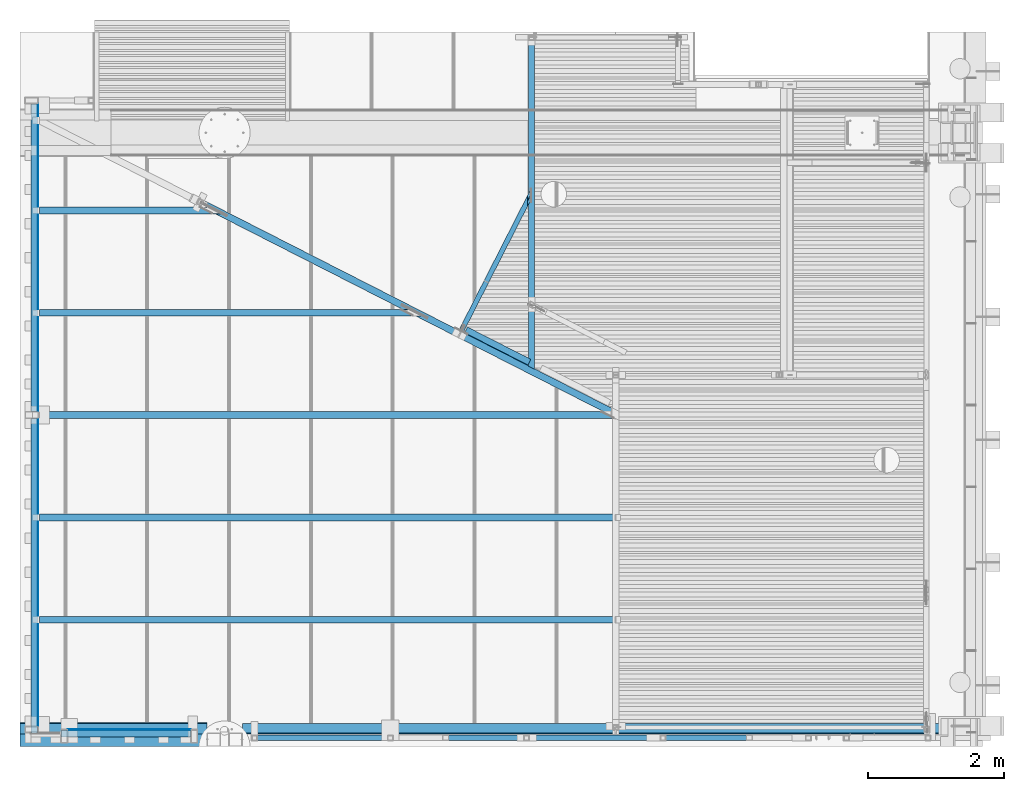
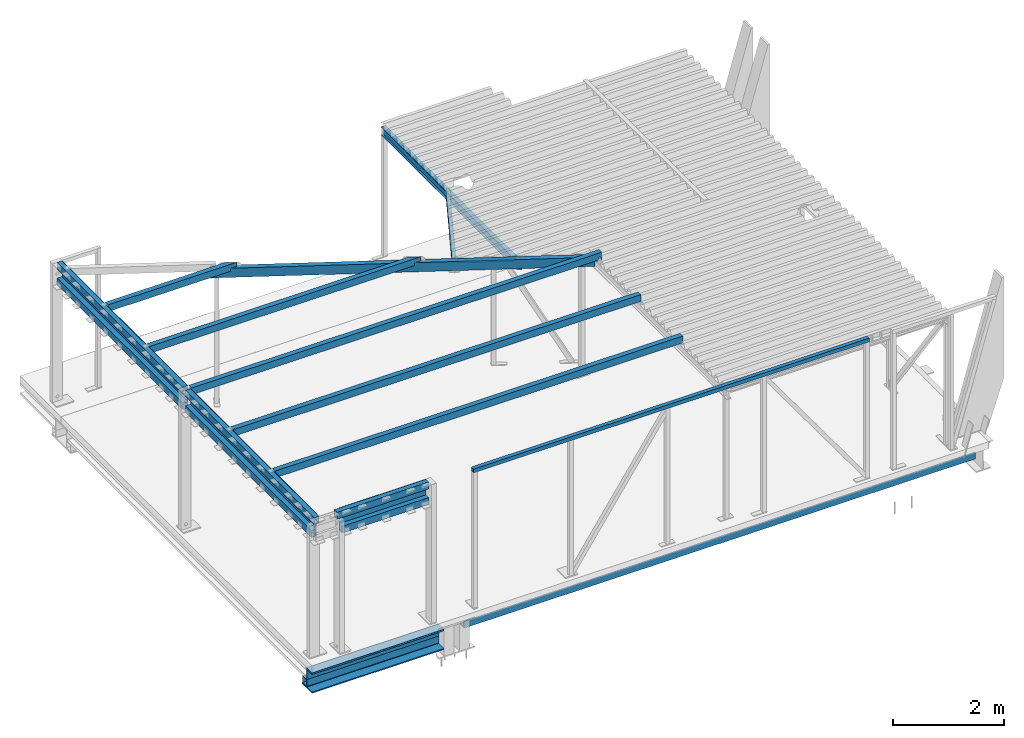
# One storey, part 6 of 30: 22 beams.
"""IFC2X3 building model written with IfcOpenShell, lengths in millimetres."""

from ifc_helpers import new_model, entity, si_unit, converted_unit, derived_unit, direction, frame, origin_with_axes, place, context, subcontext, project, spatial, faceted_brep, material, type_object, element, save


model = new_model("IFC2X3")

# Units and contexts
model_context = context("Model", 3, precision=0.01, world=frame((0.0, 4.29681676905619e-09, 0.0)), true_north=direction((4.01073788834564e-13, 1.0)))
plan_context = context("Plan", 3, precision=0.01, world=frame((0.0, 4.29681676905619e-09, 0.0)), true_north=direction((4.01073788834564e-13, 1.0)))
body_context = subcontext(model_context, "Body", "Model", "MODEL_VIEW")
ifc_project = project(units=[converted_unit("PLANEANGLEUNIT", "DEGREE", entity("IfcPositiveLengthMeasure", 0.0174532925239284), si_unit("PLANEANGLEUNIT", "RADIAN"), dimensions=[0, 0, 0, 0, 0, 0, 0]), si_unit("AREAUNIT", "SQUARE_METRE"), si_unit("LENGTHUNIT", "METRE", prefix="MILLI"), si_unit("MASSUNIT", "GRAM", prefix="KILO"), si_unit("POWERUNIT", "WATT"), si_unit("PRESSUREUNIT", "PASCAL"), si_unit("FORCEUNIT", "NEWTON", prefix="KILO"), si_unit("ELECTRICVOLTAGEUNIT", "VOLT"), si_unit("ELECTRICCURRENTUNIT", "AMPERE"), si_unit("THERMODYNAMICTEMPERATUREUNIT", "DEGREE_CELSIUS"), si_unit("TIMEUNIT", "SECOND"), si_unit("VOLUMEUNIT", "CUBIC_METRE"), derived_unit("LINEARVELOCITYUNIT", [(si_unit("LENGTHUNIT", "METRE"), 1), (si_unit("TIMEUNIT", "SECOND"), -1)]), derived_unit("VOLUMETRICFLOWRATEUNIT", [(si_unit("VOLUMEUNIT", "CUBIC_METRE"), 1), (si_unit("TIMEUNIT", "SECOND"), -1)]), derived_unit("THERMALTRANSMITTANCEUNIT", [(si_unit("POWERUNIT", "WATT"), 1), (si_unit("THERMODYNAMICTEMPERATUREUNIT", "KELVIN"), -1), (si_unit("AREAUNIT", "SQUARE_METRE"), -1)]), derived_unit("SOUNDPRESSUREUNIT", [(si_unit("PRESSUREUNIT", "PASCAL"), 1)])], contexts=[model_context, plan_context])

# Site, building, storey
site_placement = place(None, frame((0.0, -4.29681676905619e-09, 0.0), z_axis=(0.0, 0.0, 1.0), x_axis=(1.0, 0.0, 0.0)))
site = spatial("IfcSite", under=ifc_project, at=site_placement, Name="Gardermoen", CompositionType="ELEMENT")
building_placement = place(site_placement, frame((0.0, 4.29681676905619e-09, 0.0), z_axis=(0.0, 0.0, 1.0), x_axis=(1.0, 0.0, 0.0)))
building = spatial("IfcBuilding", under=site, at=building_placement, Name="TI", CompositionType="ELEMENT")
storey_placement = place(building_placement, origin_with_axes())
storey = spatial("IfcBuildingStorey", under=building, at=storey_placement, Name="F", CompositionType="ELEMENT", Elevation=0.0)

# Beams
ifc_material_1 = material(Name="STEEL/S355J2H")
beam_type_1 = type_object("IfcBeamType", Name="IPE140", PredefinedType="NOTDEFINED")
beam_1_placement = place(storey_placement, frame((605579.072081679, 697269.049177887, 213629.999809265), z_axis=(0.0, 0.0, 1.0), x_axis=(-0.45399020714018, -0.891006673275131, 0.0)))
element("IfcBeam", 1, at=beam_1_placement, inside=storey, type_object=beam_type_1, material=ifc_material_1, Name="STÅLBJELKE", ObjectType="IPE140", context=body_context, shape_type="Brep", body=[
    faceted_brep([(195.825077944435, 2.3499998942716, 54.9998889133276), (186.600801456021, -2.34999991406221, 54.9998889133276), (274.380968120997, -2.3499999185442, 54.9998889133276), (283.605238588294, 2.34999988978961, 54.9998889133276), (292.002484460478, -2.34999991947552, 63.0999999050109), (301.226754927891, 2.3499998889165, 63.0999999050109), (368.249914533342, 36.4999999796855, 70.0), (368.249914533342, 36.4999999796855, 63.0999999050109), (224.979324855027, -36.5000000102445, 63.0999999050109), (224.979324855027, -36.5000000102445, 70.0), (2428.00326682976, 2.34999977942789, -63.0999999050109), (2428.00326683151, 36.4999998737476, -63.0999999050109), (262.848281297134, 36.499999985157, -63.0999999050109), (195.825077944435, 2.3499998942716, -63.0999999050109), (2428.00326682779, -36.5000001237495, -63.0999999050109), (2428.00326682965, -2.35000002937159, -63.0999999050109), (186.600801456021, -2.34999991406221, -63.0999999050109), (119.577598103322, -36.5000000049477, -63.0999999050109), (2428.00326682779, -36.5000001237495, -70.0), (119.577598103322, -36.5000000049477, -70.0), (2428.00326683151, 36.4999998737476, -70.0), (262.848281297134, 36.499999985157, -70.0), (2428.00326682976, 2.34999977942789, 63.0999999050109), (2428.00326683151, 36.4999998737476, 63.0999999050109), (2428.00326683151, 36.4999998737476, 70.0), (2428.00326682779, -36.5000001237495, 70.0), (2428.00326682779, -36.5000001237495, 63.0999999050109), (2428.00326682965, -2.35000002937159, 63.0999999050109)], [[[0, 1, 2, 3]], [[3, 2, 4, 5]], [[6, 7, 5, 4, 8, 9]], [[10, 11, 12, 13]], [[14, 15, 16, 17]], [[18, 14, 17, 19]], [[20, 18, 19, 21]], [[11, 20, 21, 12]], [[10, 22, 23, 24, 25, 26, 27, 15, 14, 18, 20, 11]], [[25, 24, 6, 9]], [[26, 25, 9, 8]], [[27, 26, 8, 4]], [[1, 16, 15, 27, 4, 2]], [[13, 12, 21, 19, 17, 16, 1, 0]], [[22, 10, 13, 0, 3, 5]], [[23, 22, 5, 7]], [[24, 23, 7, 6]]]),
])
ifc_material_2 = material(Name="STEEL/S355")
beam_type_2 = type_object("IfcBeamType", Name="RHS150*100*8", PredefinedType="NOTDEFINED")
beam_2_placement = place(storey_placement, frame((600504.231709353, 689189.997607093, 213820.000686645), z_axis=(0.0, 0.0, 1.0), x_axis=(-0.999999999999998, 5.80000057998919e-08, 0.0)))
element("IfcBeam", 2, at=beam_2_placement, inside=storey, type_object=beam_type_2, material=ifc_material_2, Name="STÅLBJELKE", ObjectType="RHS150*100*8", context=body_context, shape_type="Brep", body=[
    faceted_brep([(-1.86264514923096e-09, 42.0000000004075, -67.0), (1.62981450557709e-09, -42.000000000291, -67.0), (1904.23001263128, -41.999999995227, -67.0000000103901), (1904.23001263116, 42.000000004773, -67.0000000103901), (1.62981450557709e-09, -42.000000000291, 67.0), (1904.23001263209, -41.999999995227, 66.999999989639), (-1.86264514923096e-09, 42.0000000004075, 67.0), (1904.23001263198, 42.000000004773, 66.999999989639), (0.0, 50.0, -75.0), (0.0, 50.0, 75.0), (1904.23001263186, 50.000000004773, 74.999999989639), (1904.23001263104, 50.000000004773, -75.0000000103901), (0.0, -50.0, 75.0), (1904.23001263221, -49.999999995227, 74.999999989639), (0.0, -50.0, -75.0), (1904.23001263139, -49.999999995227, -75.0000000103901)], [[[0, 1, 2, 3]], [[1, 4, 5, 2]], [[4, 6, 7, 5]], [[6, 0, 3, 7]], [[8, 9, 10, 11]], [[9, 12, 13, 10]], [[12, 14, 15, 13]], [[14, 8, 11, 15]], [[13, 15, 11, 10], [5, 7, 3, 2]], [[14, 12, 9, 8], [6, 4, 1, 0]]]),
])
beam_3_placement = place(storey_placement, frame((600509.991711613, 689189.997607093, 213480.000686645), z_axis=(0.0, 0.0, 1.0), x_axis=(-0.999999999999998, 5.80000057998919e-08, 0.0)))
element("IfcBeam", 3, at=beam_3_placement, inside=storey, type_object=beam_type_2, material=ifc_material_2, Name="STÅLBJELKE", ObjectType="RHS150*100*8", context=body_context, shape_type="Brep", body=[
    faceted_brep([(-1.86264514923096e-09, 42.0000000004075, -67.0), (1.62981450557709e-09, -42.000000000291, -67.0), (1809.99001264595, -41.999999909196, -66.9999999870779), (1809.99001264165, 42.000000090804, -66.9999999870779), (1.62981450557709e-09, -42.000000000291, 67.0), (1809.99001264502, -41.999999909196, 67.0000000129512), (-1.86264514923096e-09, 42.0000000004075, 67.0), (1809.99001264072, 42.000000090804, 67.0000000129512), (0.0, 50.0, -75.0), (0.0, 50.0, 75.0), (1809.99001264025, 50.000000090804, 75.0000000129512), (1809.9900126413, 50.000000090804, -74.9999999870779), (0.0, -50.0, 75.0), (1809.99001264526, -49.999999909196, 75.0000000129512), (0.0, -50.0, -75.0), (1809.9900126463, -49.999999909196, -74.9999999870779)], [[[0, 1, 2, 3]], [[1, 4, 5, 2]], [[4, 6, 7, 5]], [[6, 0, 3, 7]], [[8, 9, 10, 11]], [[9, 12, 13, 10]], [[12, 14, 15, 13]], [[14, 8, 11, 15]], [[13, 15, 11, 10], [5, 7, 3, 2]], [[14, 12, 9, 8], [6, 4, 1, 0]]]),
])
beam_4_placement = place(storey_placement, frame((598209.997607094, 693912.00258804, 213820.000686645), z_axis=(0.0, 0.0, 1.0), x_axis=(0.0, 1.0, 0.0)))
element("IfcBeam", 4, at=beam_4_placement, inside=storey, type_object=beam_type_2, material=ifc_material_2, Name="STÅLBJELKE", ObjectType="RHS150*100*8", context=body_context, shape_type="Brep", body=[
    faceted_brep([(-1.86264514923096e-09, 42.0000000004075, -67.0), (1.62981450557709e-09, -42.000000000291, -67.0), (4512.00001263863, -42.0000001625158, -66.9999999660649), (4512.00001264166, 41.9999998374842, -66.9999999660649), (1.62981450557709e-09, -42.000000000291, 67.0), (4512.00001264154, -42.0000001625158, 67.000000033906), (-1.86264514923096e-09, 42.0000000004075, 67.0), (4512.00001264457, 41.9999998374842, 67.000000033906), (0.0, 50.0, -75.0), (0.0, 50.0, 75.0), (4512.00001264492, 49.9999998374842, 75.000000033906), (4512.00001264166, 49.9999998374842, -74.9999999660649), (0.0, -50.0, 75.0), (4512.00001264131, -50.0000001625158, 75.000000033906), (0.0, -50.0, -75.0), (4512.00001263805, -50.0000001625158, -74.9999999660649)], [[[0, 1, 2, 3]], [[1, 4, 5, 2]], [[4, 6, 7, 5]], [[6, 0, 3, 7]], [[8, 9, 10, 11]], [[9, 12, 13, 10]], [[12, 14, 15, 13]], [[14, 8, 11, 15]], [[13, 15, 11, 10], [5, 7, 3, 2]], [[14, 12, 9, 8], [6, 4, 1, 0]]]),
])
beam_5_placement = place(storey_placement, frame((598210.001655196, 689200.007521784, 213819.999619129), z_axis=(0.0, 0.0, 1.0), x_axis=(0.0, 1.0, 0.0)))
element("IfcBeam", 5, at=beam_5_placement, inside=storey, type_object=beam_type_2, material=ifc_material_2, Name="STÅLBJELKE", ObjectType="RHS150*100*8", context=body_context, shape_type="Brep", body=[
    faceted_brep([(-1.86264514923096e-09, 42.0000000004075, -67.0), (1.62981450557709e-09, -42.000000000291, -67.0), (4611.99078032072, -42.0000001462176, -67.0), (4611.99078032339, 41.9999998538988, -67.0), (1.62981450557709e-09, -42.000000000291, 67.0), (4611.99078032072, -42.0000001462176, 67.0), (-1.86264514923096e-09, 42.0000000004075, 67.0), (4611.99078032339, 41.9999998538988, 67.0), (0.0, 50.0, -75.0), (0.0, 50.0, 75.0), (4611.99078032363, 49.9999998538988, 75.0), (4611.99078032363, 49.9999998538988, -75.0), (0.0, -50.0, 75.0), (4611.99078032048, -50.0000001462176, 75.0), (0.0, -50.0, -75.0), (4611.99078032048, -50.0000001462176, -75.0)], [[[0, 1, 2, 3]], [[1, 4, 5, 2]], [[4, 6, 7, 5]], [[6, 0, 3, 7]], [[8, 9, 10, 11]], [[9, 12, 13, 10]], [[12, 14, 15, 13]], [[14, 8, 11, 15]], [[13, 15, 11, 10], [5, 7, 3, 2]], [[14, 12, 9, 8], [6, 4, 1, 0]]]),
])
for number, where, z_axis, x_axis in (
    (6, (598209.997607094, 693912.00258804, 213480.000686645), (0.0, 0.0, 1.0), (0.0, 1.0, 0.0)),
    (7, (598209.997607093, 689300.008315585, 213480.000686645), (0.0, 0.0, 1.0), (0.0, 1.0, 0.0)),
):
    element("IfcBeam", number, at=place(storey_placement, frame(where, z_axis=z_axis, x_axis=x_axis)), inside=storey, type_object=beam_type_2, material=ifc_material_2, Name="STÅLBJELKE", ObjectType="RHS150*100*8", context=body_context, shape_type="Brep", body=[
        faceted_brep([(-1.86264514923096e-09, 42.0000000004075, -67.0), (1.62981450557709e-09, -42.000000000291, -67.0), (4512.00001263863, -42.0000001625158, -66.9999999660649), (4512.00001264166, 41.9999998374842, -66.9999999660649), (1.62981450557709e-09, -42.000000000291, 67.0), (4512.00001264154, -42.0000001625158, 67.000000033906), (-1.86264514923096e-09, 42.0000000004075, 67.0), (4512.00001264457, 41.9999998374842, 67.000000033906), (0.0, 50.0, -75.0), (0.0, 50.0, 75.0), (4512.00001264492, 49.9999998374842, 75.000000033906), (4512.00001264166, 49.9999998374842, -74.9999999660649), (0.0, -50.0, 75.0), (4512.00001264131, -50.0000001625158, 75.000000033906), (0.0, -50.0, -75.0), (4512.00001263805, -50.0000001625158, -74.9999999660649)], [[[0, 1, 2, 3]], [[1, 4, 5, 2]], [[4, 6, 7, 5]], [[6, 0, 3, 7]], [[8, 9, 10, 11]], [[9, 12, 13, 10]], [[12, 14, 15, 13]], [[14, 8, 11, 15]], [[13, 15, 11, 10], [5, 7, 3, 2]], [[14, 12, 9, 8], [6, 4, 1, 0]]]),
    ])
beam_type_3 = type_object("IfcBeamType", Name="PL10*490", PredefinedType="NOTDEFINED")
beam_6_placement = place(storey_placement, frame((600504.231811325, 689244.997607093, 213650.000686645), z_axis=(0.0, 0.0, 1.0), x_axis=(-0.999999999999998, 5.80000057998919e-08, 0.0)))
element("IfcBeam", 8, at=beam_6_placement, inside=storey, type_object=beam_type_3, material=ifc_material_2, Name="STÅLBJELKE", ObjectType="PL10*490", context=body_context, shape_type="Brep", body=[
    faceted_brep([(0.0, 5.0, -245.0), (0.0, 5.0, 245.0), (1804.23001253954, 5.00000009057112, 244.999999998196), (1804.23001255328, 5.00000009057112, -245.000000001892), (0.0, -5.0, 245.0), (1804.23001254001, -4.99999990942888, 244.999999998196), (0.0, -5.0, -245.0), (1804.23001255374, -4.99999990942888, -245.000000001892)], [[[0, 1, 2, 3]], [[1, 4, 5, 2]], [[4, 6, 7, 5]], [[6, 0, 3, 7]], [[5, 7, 3, 2]], [[6, 4, 1, 0]]]),
])
for number, where, z_axis, x_axis in (
    (9, (598264.997607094, 693912.002548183, 213650.000686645), (0.0, 0.0, 1.0), (0.0, 1.0, 0.0)),
    (10, (598264.997607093, 689300.00827575, 213650.000686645), (0.0, 0.0, 1.0), (0.0, 1.0, 0.0)),
):
    element("IfcBeam", number, at=place(storey_placement, frame(where, z_axis=z_axis, x_axis=x_axis)), inside=storey, type_object=beam_type_3, material=ifc_material_2, Name="STÅLBJELKE", ObjectType="PL10*490", context=body_context, shape_type="Brep", body=[
        faceted_brep([(0.0, 5.0, -245.0), (0.0, 5.0, 245.0), (4512.00001263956, 4.99999983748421, 245.000000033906), (4512.00001262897, 4.99999983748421, -244.999999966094), (0.0, -5.0, 245.0), (4512.00001263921, -5.00000016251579, 245.000000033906), (0.0, -5.0, -245.0), (4512.00001262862, -5.00000016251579, -244.999999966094)], [[[0, 1, 2, 3]], [[1, 4, 5, 2]], [[4, 6, 7, 5]], [[6, 0, 3, 7]], [[5, 7, 3, 2]], [[6, 4, 1, 0]]]),
    ])
beam_type_4 = type_object("IfcBeamType", Name="RHS80*80*6.3", PredefinedType="NOTDEFINED")
beam_7_placement = place(storey_placement, frame((609600.002392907, 689127.502606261, 213855.000686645), z_axis=(0.0, 0.0, 1.0), x_axis=(-0.999999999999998, 5.80000057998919e-08, 0.0)))
element("IfcBeam", 11, at=beam_7_placement, inside=storey, type_object=beam_type_4, material=ifc_material_2, Name="STÅLBJELKE", ObjectType="RHS80*80*6.3", context=body_context, shape_type="Brep", body=[
    faceted_brep([(0.0, 33.6999998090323, -33.6999998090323), (0.0, -33.6999998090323, -33.6999998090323), (8199.98999999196, -33.6999998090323, -33.6999998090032), (8199.98999999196, 33.6999998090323, -33.6999998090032), (0.0, -33.6999998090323, 33.6999998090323), (8199.98999999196, -33.6999998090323, 33.6999998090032), (0.0, 33.6999998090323, 33.6999998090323), (8199.98999999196, 33.6999998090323, 33.6999998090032), (0.0, 40.0, -40.0), (0.0, 40.0, 40.0), (8199.98999999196, 40.0, 40.0), (8199.98999999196, 40.0, -40.0), (0.0, -40.0, 40.0), (8199.98999999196, -40.0, 40.0), (0.0, -40.0, -40.0), (8199.98999999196, -40.0, -40.0)], [[[0, 1, 2, 3]], [[1, 4, 5, 2]], [[4, 6, 7, 5]], [[6, 0, 3, 7]], [[8, 9, 10, 11]], [[9, 12, 13, 10]], [[12, 14, 15, 13]], [[14, 8, 11, 15]], [[13, 15, 11, 10], [5, 7, 3, 2]], [[14, 12, 9, 8], [6, 4, 1, 0]]]),
])
beam_type_5 = type_object("IfcBeamType", Name="L100*6", PredefinedType="NOTDEFINED")
beam_8_placement = place(storey_placement, frame((604540.538617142, 695106.735130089, 213743.999810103), z_axis=(0.45394858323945, 0.89102788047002, 7.61006163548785e-23), x_axis=(0.891027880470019, -0.45394858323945, 4.20000040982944e-08)))
element("IfcBeam", 12, at=beam_8_placement, inside=storey, type_object=beam_type_5, material=ifc_material_2, Name="STÅLBJELKE", ObjectType="L100*6", context=body_context, shape_type="Brep", body=[
    faceted_brep([(0.0, 50.0, -50.0), (0.0, 50.0, 50.0), (1042.54999846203, 50.0000000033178, 50.000000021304), (1042.54999846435, 50.0000000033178, -49.9999999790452), (-2.73576006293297e-09, 44.0, 49.9999999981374), (1042.54999846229, 44.0000000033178, 50.0000000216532), (-6.40284270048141e-10, 44.0, -44.0000000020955), (1042.54999846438, 44.0000000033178, -43.999999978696), (2.73576006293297e-09, -50.0, -43.9999999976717), (1042.54999846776, -49.9999999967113, -43.9999999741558), (0.0, -50.0, -50.0), (1042.54999846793, -49.9999999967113, -49.9999999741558)], [[[0, 1, 2, 3]], [[1, 4, 5, 2]], [[4, 6, 7, 5]], [[6, 8, 9, 7]], [[8, 10, 11, 9]], [[10, 0, 3, 11]], [[5, 7, 9, 11, 3, 2]], [[10, 8, 6, 4, 1, 0]]]),
])
beam_type_6 = type_object("IfcBeamType", Name="RHS150*100*6.3", PredefinedType="NOTDEFINED")
beam_9_placement = place(storey_placement, frame((598283.994715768, 696860.001187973, 213824.999645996), z_axis=(0.0, 0.0, 1.0), x_axis=(1.0, 0.0, 0.0)))
element("IfcBeam", 13, at=beam_9_placement, inside=storey, type_object=beam_type_6, material=ifc_material_1, Name="STÅLBJELKE", ObjectType="RHS150*100*6.3", context=body_context, shape_type="Brep", body=[
    faceted_brep([(0.0, -50.0, -75.0), (0.0, 50.0, -75.0), (2343.25041549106, 50.0, -74.9999999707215), (2539.48913229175, -50.0, -74.9999999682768), (2343.25042209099, 50.0, -15.000257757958), (2355.61346162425, 43.6999998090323, -15.0002591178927), (2355.61345571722, 43.6999998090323, -68.6999997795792), (2527.12609345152, -43.6999998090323, -68.6999997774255), (2527.12609935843, -43.6999998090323, -15.0002779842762), (2539.48913889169, -50.0, -15.0002793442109), (8.14907252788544e-10, 43.6999998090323, -68.6999998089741), (8.14907252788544e-10, -43.6999998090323, -68.6999998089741), (0.0, -50.0, 75.0), (0.0, 50.0, 75.0), (4.45288605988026e-09, 43.6999998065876, 68.6999998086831), (1.45519152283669e-10, -43.6999998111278, 68.6999998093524), (2671.63200163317, -50.0, 75.0000000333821), (2475.39010602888, 50.0, 75.0000000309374), (2475.3900961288, 50.0, -15.0002722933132), (2487.75333592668, 43.6999998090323, -15.000273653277), (2487.75334513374, 43.6999998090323, 68.6999998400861), (2659.26876114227, -43.6999998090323, 68.6999998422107), (2659.26875193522, -43.6999998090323, -15.0002925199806), (2671.6319917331, -50.0, -15.0002938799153)], [[[0, 1, 2, 3]], [[3, 2, 4, 5, 6, 7, 8, 9]], [[10, 11, 7, 6]], [[0, 12, 13, 1], [14, 15, 11, 10]], [[13, 12, 16, 17]], [[4, 2, 1, 13, 17, 18]], [[5, 4, 18, 19]], [[14, 10, 6, 5, 19, 20]], [[15, 14, 20, 21]], [[8, 7, 11, 15, 21, 22]], [[9, 8, 22, 23]], [[12, 0, 3, 9, 23, 16]], [[22, 21, 20, 19, 18, 17, 16, 23]]]),
])
beam_10_placement = place(storey_placement, frame((598283.994707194, 695360.001187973, 213824.999645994), z_axis=(0.0, 0.0, 1.0), x_axis=(1.0, 0.0, 0.0)))
element("IfcBeam", 14, at=beam_10_placement, inside=storey, type_object=beam_type_6, material=ifc_material_1, Name="STÅLBJELKE", ObjectType="RHS150*100*6.3", context=body_context, shape_type="Brep", body=[
    faceted_brep([(0.0, -50.0, -75.0), (0.0, 50.0, -75.0), (5287.1704326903, 50.0, -75.0000000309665), (5483.40914949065, -50.0, -75.0000000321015), (5287.1704323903, 50.0, -14.999973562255), (5299.53347192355, 43.6999998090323, -14.9999735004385), (5299.53347219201, 43.6999998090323, -68.699999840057), (5471.04610992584, -43.6999998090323, -68.6999998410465), (5471.04610965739, -43.6999998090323, -14.999972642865), (5483.40914919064, -50.0, -14.9999725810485), (8.14907252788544e-10, 43.6999998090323, -68.6999998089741), (8.14907252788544e-10, -43.6999998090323, -68.6999998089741), (0.0, -50.0, 75.0), (0.0, 50.0, 75.0), (4.45288605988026e-09, 43.6999998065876, 68.6999998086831), (1.45519152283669e-10, -43.6999998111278, 68.6999998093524), (5615.55200158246, -50.0, 74.9999999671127), (5419.31010597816, 50.0, 74.9999999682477), (5419.31010642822, 50.0, -14.999972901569), (5431.6733462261, 43.6999998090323, -14.9999728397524), (5431.67334580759, 43.6999998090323, 68.6999997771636), (5603.18876181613, -43.6999998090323, 68.6999997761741), (5603.18876223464, -43.6999998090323, -14.9999719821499), (5615.55200203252, -50.0, -14.9999719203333)], [[[0, 1, 2, 3]], [[3, 2, 4, 5, 6, 7, 8, 9]], [[10, 11, 7, 6]], [[0, 12, 13, 1], [14, 15, 11, 10]], [[13, 12, 16, 17]], [[4, 2, 1, 13, 17, 18]], [[5, 4, 18, 19]], [[14, 10, 6, 5, 19, 20]], [[15, 14, 20, 21]], [[8, 7, 11, 15, 21, 22]], [[9, 8, 22, 23]], [[12, 0, 3, 9, 23, 16]], [[22, 21, 20, 19, 18, 17, 16, 23]]]),
])
beam_11_placement = place(storey_placement, frame((598283.994707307, 693860.001187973, 213824.999645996), z_axis=(0.0, 0.0, 1.0), x_axis=(1.0, 0.0, 0.0)))
element("IfcBeam", 15, at=beam_11_placement, inside=storey, type_object=beam_type_6, material=ifc_material_1, Name="STÅLBJELKE", ObjectType="RHS150*100*6.3", context=body_context, shape_type="Brep", body=[
    faceted_brep([(8496.86643249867, 43.6999998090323, -14.9999742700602), (8243.45370370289, 43.6999998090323, -14.9999750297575), (8231.09051570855, 50.0, -14.999975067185), (8496.86643249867, 50.0, -14.9999742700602), (8427.33158921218, -50.0, -74.9999999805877), (8231.09051588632, 50.0, -74.9999999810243), (8243.45370386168, 43.6999998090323, -68.6999997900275), (8414.96840119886, -43.6999998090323, -68.6999997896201), (8414.96840104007, -43.6999998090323, -14.9999745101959), (8427.33158903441, -50.0, -14.9999744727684), (8496.86643249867, -50.0, -14.9999742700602), (8496.86643249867, -43.6999998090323, -14.9999742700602), (8496.86643250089, 43.6999998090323, 68.6999998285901), (4.45288605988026e-09, 43.6999998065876, 68.6999998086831), (8.14907252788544e-10, 43.6999998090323, -68.6999998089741), (1.45519152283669e-10, -43.6999998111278, 68.6999998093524), (8496.86643250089, -43.6999998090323, 68.6999998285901), (8.14907252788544e-10, -43.6999998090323, -68.6999998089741), (0.0, -50.0, -75.0), (0.0, -50.0, 75.0), (0.0, 50.0, 75.0), (0.0, 50.0, -75.0), (8496.86643250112, -50.0, 75.0000000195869), (8496.86643250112, 50.0, 75.0000000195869)], [[[0, 1, 2, 3]], [[4, 5, 2, 1, 6, 7, 8, 9]], [[10, 9, 8, 11]], [[12, 13, 14, 6, 1, 0]], [[15, 13, 12, 16]], [[7, 17, 15, 16, 11, 8]], [[14, 17, 7, 6]], [[18, 19, 20, 21], [13, 15, 17, 14]], [[20, 19, 22, 23]], [[16, 12, 0, 3, 23, 22, 10, 11]], [[5, 21, 20, 23, 3, 2]], [[18, 21, 5, 4]], [[22, 19, 18, 4, 9, 10]]]),
])
for number, where, z_axis, x_axis in (
    (16, (598283.994707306, 692360.001187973, 213824.999645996), (0.0, 0.0, 1.0), (1.0, 0.0, 0.0)),
    (17, (598283.994707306, 690860.001187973, 213824.999645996), (0.0, 0.0, 1.0), (1.0, 0.0, 0.0)),
):
    element("IfcBeam", number, at=place(storey_placement, frame(where, z_axis=z_axis, x_axis=x_axis)), inside=storey, type_object=beam_type_6, material=ifc_material_1, Name="STÅLBJELKE", ObjectType="RHS150*100*6.3", context=body_context, shape_type="Brep", body=[
        faceted_brep([(8.14907252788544e-10, 43.6999998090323, -68.6999998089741), (8.14907252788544e-10, -43.6999998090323, -68.6999998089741), (8444.92643249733, -43.6999998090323, -68.6999997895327), (8444.92643249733, 43.6999998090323, -68.6999997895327), (1.45519152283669e-10, -43.6999998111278, 68.6999998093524), (8444.92643250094, -43.6999998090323, 68.6999998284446), (4.45288605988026e-09, 43.6999998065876, 68.6999998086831), (8444.92643250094, 43.6999998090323, 68.6999998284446), (0.0, 50.0, -75.0), (0.0, 50.0, 75.0), (8444.92643250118, 50.0, 75.0000000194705), (8444.92643249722, 50.0, -74.9999999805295), (0.0, -50.0, 75.0), (8444.92643250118, -50.0, 75.0000000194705), (0.0, -50.0, -75.0), (8444.92643249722, -50.0, -74.9999999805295)], [[[0, 1, 2, 3]], [[1, 4, 5, 2]], [[4, 6, 7, 5]], [[6, 0, 3, 7]], [[8, 9, 10, 11]], [[9, 12, 13, 10]], [[12, 14, 15, 13]], [[14, 8, 11, 15]], [[13, 15, 11, 10], [5, 7, 3, 2]], [[14, 12, 9, 8], [6, 4, 1, 0]]]),
    ])
beam_type_7 = type_object("IfcBeamType", Name="RHS200*100*6.3", PredefinedType="NOTDEFINED")
beam_12_placement = place(storey_placement, frame((606807.594383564, 693839.508725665, 213699.999913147), z_axis=(0.0, 0.0, 1.0), x_axis=(-0.891006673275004, 0.453990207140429, 0.0)))
element("IfcBeam", 18, at=beam_12_placement, inside=storey, type_object=beam_type_7, material=ifc_material_1, Name="STÅLBJELKE", ObjectType="RHS200*100*6.3", context=body_context, shape_type="Brep", body=[
    faceted_brep([(6.63794015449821, 43.6999998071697, 9.99993427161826), (3.42793456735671, 49.9999999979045, 9.99993425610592), (128.006108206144, 50.0000000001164, 9.99993475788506), (131.216113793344, 43.6999998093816, 9.99993477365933), (178.95857629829, -49.9999999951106, 9.99993500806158), (175.748570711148, -43.6999998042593, 9.99993499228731), (175.748571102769, -43.699999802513, -93.6999998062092), (131.216114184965, 43.6999998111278, -93.6999998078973), (128.00610862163, 50.0000000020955, -99.9999999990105), (178.958576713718, -49.9999999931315, -99.9999999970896), (54.3804026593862, -49.9999999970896, 9.99993450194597), (51.1703970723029, -43.6999998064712, 9.99993448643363), (7044.49625025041, -49.9999998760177, 100.000000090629), (7044.4962502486, 50.0000001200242, 100.000000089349), (3.42793422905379, 49.9999999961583, 99.9999999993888), (54.3804023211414, -49.9999999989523, 100.000000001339), (7044.49625024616, 50.0000001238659, -99.9999999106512), (7044.49625024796, -49.9999998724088, -99.9999999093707), (7044.49625025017, -43.6999996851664, 93.6999998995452), (7044.49625024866, 43.6999999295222, 93.6999998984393), (7044.49625024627, 43.6999999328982, -93.6999997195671), (7044.4962502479, -43.6999996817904, -93.6999997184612), (51.1703967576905, -43.6999998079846, 93.6999998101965), (6.6379398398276, 43.6999998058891, 93.6999998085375)], [[[0, 1, 2, 3]], [[4, 5, 6, 7, 3, 2, 8, 9]], [[10, 11, 5, 4]], [[12, 13, 14, 15]], [[16, 17, 9, 8]], [[14, 13, 16, 8, 2, 1]], [[12, 17, 16, 13], [18, 19, 20, 21]], [[19, 18, 22, 23]], [[20, 19, 23, 0, 3, 7]], [[21, 20, 7, 6]], [[22, 18, 21, 6, 5, 11]], [[15, 14, 1, 0, 23, 22, 11, 10]], [[17, 12, 15, 10, 4, 9]]]),
])
beam_type_8 = type_object("IfcBeamType", Name="IPE180", PredefinedType="NOTDEFINED")
beam_13_placement = place(storey_placement, frame((605502.91193594, 694432.439922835, 213609.999913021), z_axis=(0.0, 0.0, 1.0), x_axis=(0.0, 1.0, 0.0)))
element("IfcBeam", 19, at=beam_13_placement, inside=storey, type_object=beam_type_8, material=ifc_material_1, Name="STÅLBJELKE", ObjectType="IPE180", context=body_context, shape_type="Brep", body=[
    faceted_brep([(5008.05328630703, 2.65000023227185, -82.0000000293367), (5008.05328630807, 2.65000023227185, 81.9999999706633), (5008.05328630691, 45.5000001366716, 81.9999999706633), (5008.05328630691, 45.5000001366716, 89.9999999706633), (5008.05328630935, -45.4999998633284, 89.9999999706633), (5008.05328630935, -45.4999998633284, 81.9999999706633), (5008.05328630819, -2.64999995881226, 81.9999999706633), (5008.05328630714, -2.64999995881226, -82.0000000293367), (5008.05328630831, -45.4999998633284, -82.0000000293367), (5008.05328630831, -45.4999998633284, -90.0000000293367), (5008.05328630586, 45.5000001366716, -90.0000000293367), (5008.05328630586, 45.5000001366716, -82.0000000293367), (145.660182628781, 45.5000000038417, 89.999999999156), (99.2933935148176, -45.4999999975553, 89.999999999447), (99.2933935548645, -45.4999999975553, 81.999999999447), (121.126546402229, -2.65000009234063, 81.9999999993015), (121.126547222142, -2.65000009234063, -82.0000000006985), (99.2933943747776, -45.4999999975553, -82.000000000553), (99.2933944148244, -45.4999999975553, -90.000000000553), (145.660183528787, 45.5000000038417, -90.000000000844), (145.660183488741, 45.5000000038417, -82.000000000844), (123.827030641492, 2.65000009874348, -82.0000000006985), (123.827029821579, 2.65000009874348, 81.9999999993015), (145.660182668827, 45.5000000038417, 81.999999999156)], [[[0, 1, 2, 3, 4, 5, 6, 7, 8, 9, 10, 11]], [[4, 3, 12, 13]], [[5, 4, 13, 14]], [[6, 5, 14, 15]], [[7, 6, 15, 16]], [[8, 7, 16, 17]], [[9, 8, 17, 18]], [[10, 9, 18, 19]], [[11, 10, 19, 20]], [[0, 11, 20, 21]], [[1, 0, 21, 22]], [[2, 1, 22, 23]], [[3, 2, 23, 12]], [[22, 21, 20, 19, 18, 17, 16, 15, 14, 13, 12, 23]]]),
])
beam_type_9 = type_object("IfcBeamType", Name="L150*14", PredefinedType="NOTDEFINED")
beam_14_placement = place(storey_placement, frame((601260.000234, 689259.995625, 210476.0), z_axis=(0.0, 1.0, 0.0), x_axis=(1.0, 0.0, 0.0)))
element("IfcBeam", 20, at=beam_14_placement, inside=storey, type_object=beam_type_9, material=ifc_material_2, Name="STÅLBJELKE", ObjectType="L150*14", context=body_context, shape_type="Brep", body=[
    faceted_brep([(0.0, 75.0, -75.0), (0.0, 75.0, 75.0), (10590.0, 75.0, 75.0), (10590.0, 75.0, -75.0), (-9.31322574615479e-10, 60.9999999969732, 75.0), (10590.0, 61.0, 75.0), (-9.31322574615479e-10, 60.9999999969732, -61.0), (10590.0, 61.0, -61.0), (1.28056854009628e-09, -74.9999999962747, -61.0), (10590.0, -75.0, -61.0), (0.0, -75.0, -75.0), (10590.0, -75.0, -75.0)], [[[0, 1, 2, 3]], [[1, 4, 5, 2]], [[4, 6, 7, 5]], [[6, 8, 9, 7]], [[8, 10, 11, 9]], [[10, 0, 3, 11]], [[5, 7, 9, 11, 3, 2]], [[10, 8, 6, 4, 1, 0]]]),
])
beam_type_10 = type_object("IfcBeamType", Name="RHS150*5", PredefinedType="NOTDEFINED")
beam_15_placement = place(storey_placement, frame((583259.999766, 689259.995625, 210340.0), z_axis=(0.0, -1.0, 0.0), x_axis=(1.0, 0.0, 0.0)))
element("IfcBeam", 21, at=beam_15_placement, inside=storey, type_object=beam_type_10, Name="STÅLBJELKE", ObjectType="RHS150*5", context=body_context, shape_type="Brep", body=[
    faceted_brep([(14740.0002339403, -70.0, -70.0), (14740.0002339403, 70.0, -70.0), (17480.0, 70.0, -70.0), (17480.0, -70.0, -70.0), (14740.0002339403, -70.0, 70.0), (17480.0, -70.0, 70.0), (14740.0002339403, 70.0, 70.0), (17480.0, 70.0, 70.0), (14740.0002339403, 75.0, 75.0), (14740.0002339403, 75.0, -75.0), (17480.0, 75.0, -75.0), (17480.0, 75.0, 75.0), (14740.0002339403, -75.0, 75.0), (17480.0, -75.0, 75.0), (14740.0002339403, -75.0, -75.0), (17480.0, -75.0, -75.0)], [[[0, 1, 2, 3]], [[4, 0, 3, 5]], [[6, 4, 5, 7]], [[1, 6, 7, 2]], [[8, 9, 10, 11]], [[12, 8, 11, 13]], [[14, 12, 13, 15]], [[9, 14, 15, 10]], [[11, 10, 15, 13], [3, 2, 7, 5]], [[12, 14, 9, 8], [4, 6, 1, 0]]], orient=[[False], [False], [False], [False], [False], [False], [False], [False], [False, False], [False, False]]),
])
beam_type_11 = type_object("IfcBeamType", Name="HQ420*15-35*370-25*700", PredefinedType="NOTDEFINED")
beam_16_placement = place(storey_placement, frame((583259.999766, 688999.995625, 210450.0), z_axis=(0.0, 0.0, 1.0), x_axis=(1.0, 0.0, 0.0)))
element("IfcBeam", 22, at=beam_16_placement, inside=storey, type_object=beam_type_11, Name="STÅLBJELKE", ObjectType="HQ420*15-35*370-25*700", context=body_context, shape_type="Brep", body=[
    faceted_brep([(17480.0, 0.00437499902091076, -197.5), (14740.0002339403, 0.00437499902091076, -197.5), (14740.0002339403, 185.0, -197.5), (17480.0, 185.0, -197.5), (14740.0002339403, 185.0, 187.5), (14740.0002339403, 0.00437499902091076, 187.5), (17480.0, 0.00437499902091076, 187.5), (17480.0, 185.0, 187.5), (14740.0002339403, 350.0, -197.5), (14740.0002339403, 350.0, -222.5), (17480.0, 350.0, -222.5), (17480.0, 350.0, -197.5), (14740.0002339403, 200.0, -197.5), (17480.0, 200.0, -197.5), (14740.0002339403, 200.0, 222.5), (17480.0, 200.0, 222.5), (17480.0, 0.00437499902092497, 222.5), (14740.0002339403, 0.00437499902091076, 222.5), (14740.0002339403, 0.00437499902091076, -222.5), (17480.0, 0.00437499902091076, -222.5)], [[[0, 1, 2, 3]], [[4, 5, 6, 7]], [[2, 4, 7, 3]], [[8, 9, 10, 11]], [[12, 8, 11, 13]], [[14, 12, 13, 15]], [[16, 17, 14, 15]], [[9, 18, 19, 10]], [[19, 0, 3, 7, 6, 16, 15, 13, 11, 10]], [[18, 9, 8, 12, 14, 17, 5, 4, 2, 1]], [[1, 0, 19, 18]], [[17, 16, 6, 5]]], orient=[[False], [False], [False], [False], [False], [False], [False], [False], [False], [False], [False], [False]]),
])

save(model, "model.ifc")
